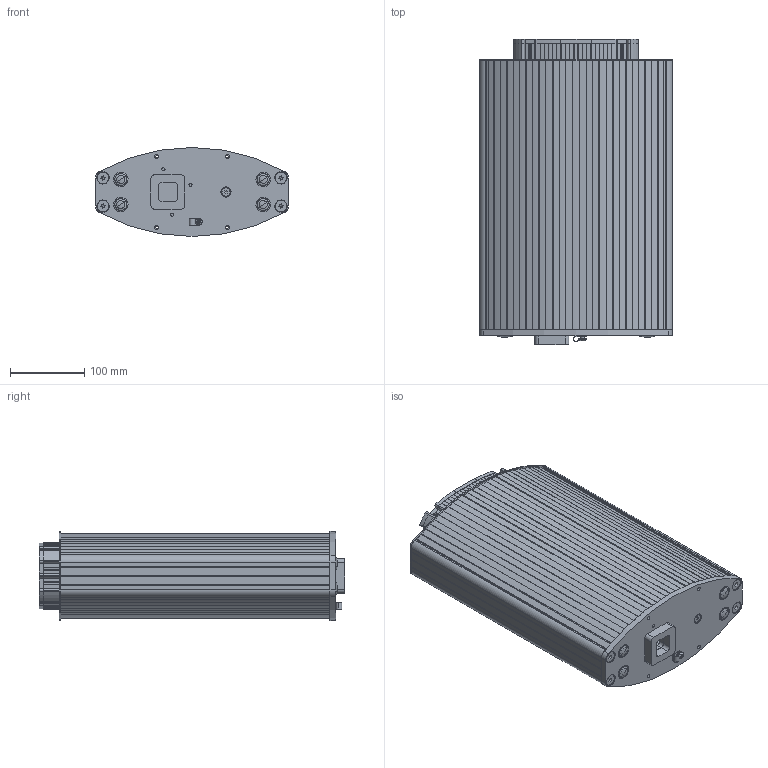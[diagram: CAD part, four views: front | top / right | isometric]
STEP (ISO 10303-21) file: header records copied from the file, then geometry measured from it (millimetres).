
FILE_DESCRIPTION (( 'STEP AP214' ), '1' );
FILE_NAME ('VS260L400400AHH24 (EZ02678).STEP', '2021-08-16T09:41:31', ( '' ), ( '' ), 'SwSTEP 2.0', 'SolidWorks 2020', '' );
FILE_SCHEMA (( 'AUTOMOTIVE_DESIGN' ));
Length unit declared in the file: millimetre
Products named in the file (20): socket countersunk head screw_1_din_DIN 7991 - M8 x 35 --- 35N - 8.8 verz.; VS260L400400AHH24 (EZ02678); EZ01530_Version neu; EZ01472_L„nge:339mm; EZ02025; EZ02680; socket button head screw_1_iso_ISO 7380 - M5 x 8 --- 8N - 10.9 verz.; Sicherungsscheiben-08490104; socket countersunk head screw_1_din_DIN 7991 - M6 x 25 --- 25N - 8.8 verz.; EZ02110_L„nge:363mm; EZ02028_EB400 Hub400; socket countersunk head screw_1_din_DIN 7991 - M6 x 16 --- 16N - 8.8 verz.; WN177 Senkschraube TaptiteII M8x16 - 41506 02; EZ02133; EZ02679_EB400 Hub400; Zierstopfen - 055 0168 113 03; Klemmschelle-2510.1-4; Gewindefurchende Senkschraube DIN 7500M Torx - M5x30 _DIN EN ISO 7046-1 - M5 x 30 - Z - 30N - St verz.; EZ01473_L„nge:306mm; EZ02132
Assembly tree (36 placements, depth 3):
  VS260L400400AHH24 (EZ02678)
    EZ02028_EB400 Hub400
      EZ02110_L„nge:363mm
      EZ01472_L„nge:339mm
      EZ01473_L„nge:306mm
    EZ02679_EB400 Hub400
      EZ02680
      Sicherungsscheiben-08490104
      socket countersunk head screw_1_din_DIN 7991 - M6 x 16 --- 16N - 8.8 verz.
    EZ02025
    EZ01530_Version neu
    Klemmschelle-2510.1-4
    Zierstopfen - 055 0168 113 03  x4
    EZ02132
    EZ02133
    WN177 Senkschraube TaptiteII M8x16 - 41506 02  x8
    socket button head screw_1_iso_ISO 7380 - M5 x 8 --- 8N - 10.9 verz.
    socket countersunk head screw_1_din_DIN 7991 - M6 x 25 --- 25N - 8.8 verz.  x2
    socket countersunk head screw_1_din_DIN 7991 - M8 x 35 --- 35N - 8.8 verz.  x4
    Gewindefurchende Senkschraube DIN 7500M Torx - M5x30 _DIN EN ISO 7046-1 - M5 x 30 - Z - 30N - St verz.  x4
Bounding box: 260 x 412 x 120 mm (x, y, z)
Volume: 3425416.3 mm3; surface area: 1780226.9 mm2
Topology: 34 solids, 34 shells, 3285 faces, 9321 edges, 6114 vertices
Faces by surface type: cylinder 2053, plane 1048, cone 134, torus 40, sphere 10
Entity records: 100611 total; most frequent: DIRECTION 18639, CARTESIAN_POINT 17303, ORIENTED_EDGE 17170, EDGE_CURVE 8585, AXIS2_PLACEMENT_3D 7079, VERTEX_POINT 5679, LINE 4481, VECTOR 4481
